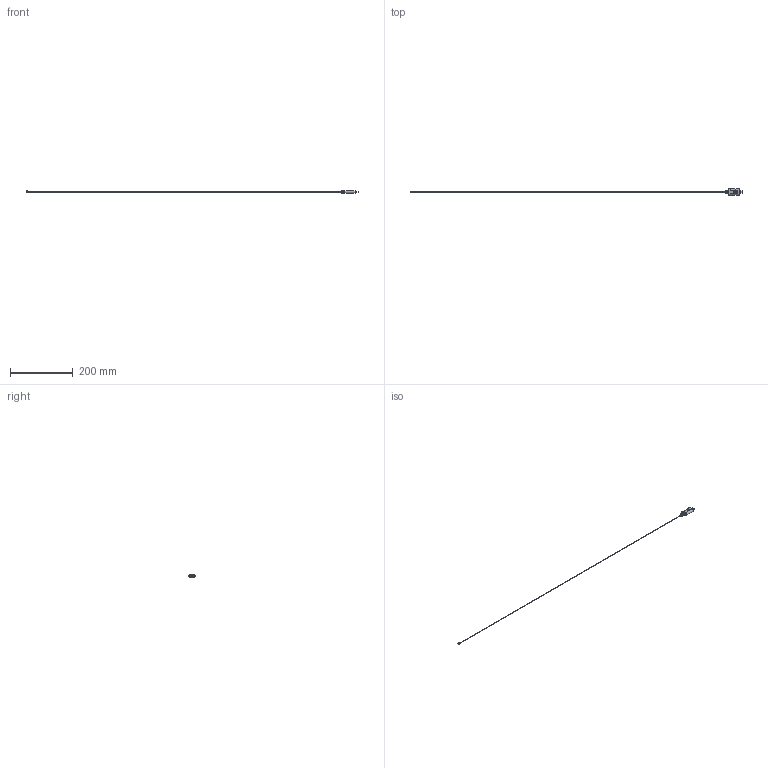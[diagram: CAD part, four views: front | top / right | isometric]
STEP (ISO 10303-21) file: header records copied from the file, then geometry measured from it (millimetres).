
FILE_DESCRIPTION (( 'STEP AP214' ), '1' );
FILE_NAME ('TYT-BL311M5L8-77-C.STEP', '2020-02-10T09:35:19', ( 'WIN' ), ( '' ), 'SwSTEP 2.0', 'SolidWorks 2013', '' );
FILE_SCHEMA (( 'AUTOMOTIVE_DESIGN' ));
Length unit declared in the file: millimetre
Products named in the file (8): OD1.9_L1000; MEX-EX-SPCA2630-04; LED(3106); HLN-3105-040G01; APAP-SD-2740-03; 18350; XD-BL31105; TYT-BL311M5L8-77-C
Assembly tree (7 placements, depth 2):
  TYT-BL311M5L8-77-C
    XD-BL31105
    18350
    APAP-SD-2740-03
    HLN-3105-040G01
    LED(3106)
    MEX-EX-SPCA2630-04
    OD1.9_L1000
Bounding box: 1062.5 x 20 x 8.9 mm (x, y, z)
Volume: 8806.8 mm3; surface area: 9473.9 mm2
Topology: 7 solids, 7 shells, 363 faces, 872 edges, 571 vertices
Faces by surface type: plane 247, cylinder 103, cone 11, sphere 2
Entity records: 11481 total; most frequent: CARTESIAN_POINT 2364, DIRECTION 1809, ORIENTED_EDGE 1744, EDGE_CURVE 872, VECTOR 613, LINE 613, AXIS2_PLACEMENT_3D 598, VERTEX_POINT 571
